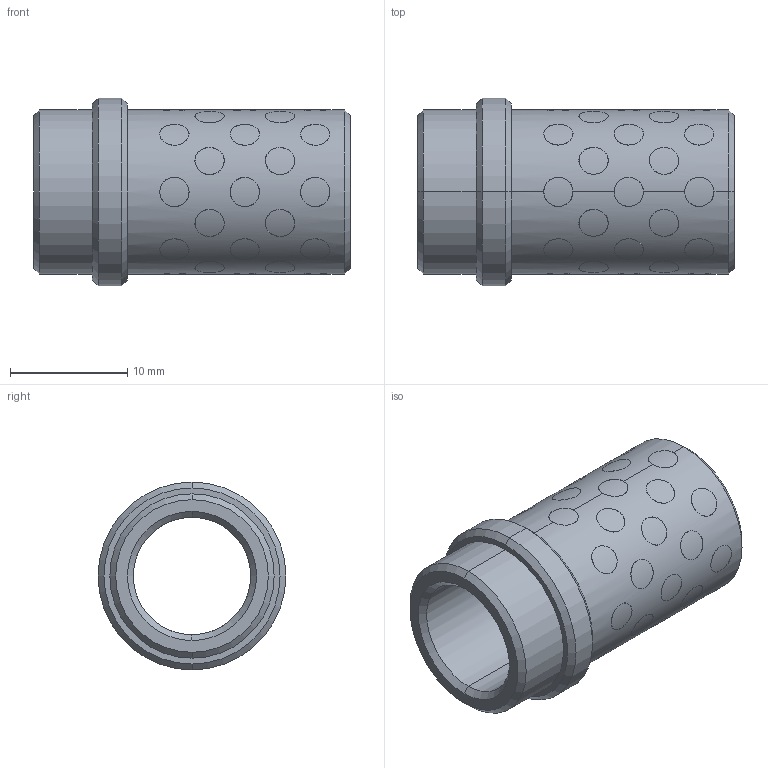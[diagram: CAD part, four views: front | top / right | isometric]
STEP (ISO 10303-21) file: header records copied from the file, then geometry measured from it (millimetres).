
FILE_DESCRIPTION((''),'2;1');
FILE_NAME('G31210022','2018-01-25T',('MANU'),(''),'PRO/ENGINEER BY PARAMETRIC TECHNOLOGY CORPORATION, 2012130','PRO/ENGINEER BY PARAMETRIC TECHNOLOGY CORPORATION, 2012130','');
FILE_SCHEMA(('CONFIG_CONTROL_DESIGN'));
Length unit declared in the file: millimetre
Products named in the file (1): G31210022
Bounding box: 27 x 16 x 16 mm (x, y, z)
Volume: 2141.2 mm3; surface area: 3487.8 mm2
Topology: 41 solids, 41 shells, 264 faces, 564 edges, 372 vertices
Faces by surface type: cylinder 248, cone 12, plane 4
Entity records: 11222 total; most frequent: CARTESIAN_POINT 6008, ORIENTED_EDGE 1128, DIRECTION 776, EDGE_CURVE 564, VERTEX_POINT 372, B_SPLINE_CURVE_WITH_KNOTS 344, EDGE_LOOP 336, AXIS2_PLACEMENT_3D 292
